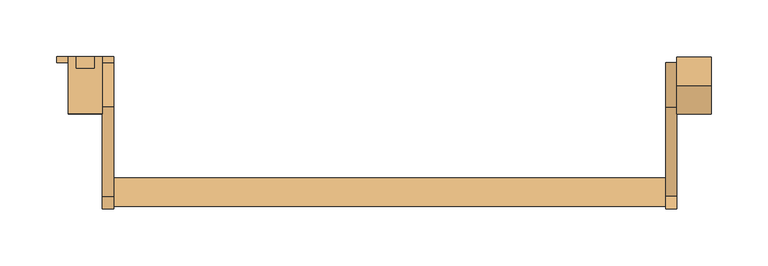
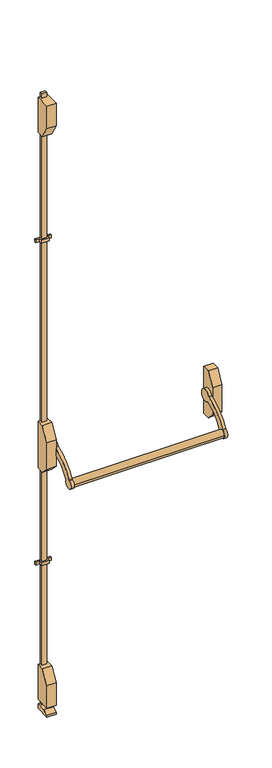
"""IFC4 building model written with IfcOpenShell, lengths in millimetres: door geometry, BarreAP : BarreAP."""

from ifc_helpers import new_model, si_unit, point, frame, frame_2d, origin, place, context, project, spatial, polyline, circle_curve, trimmed, segment, composite_curve, outline, extrude, faceted_brep, source, transform, mapped, element, save


def door_de1cb5ff(model_context):
    return source(origin(), model_context, "Body", "SolidModel", [
        extrude(outline(composite_curve([segment(trimmed(circle_curve(frame_2d((-118.8869712, 826.0898817)), 12.5), [point((-131.3869712, 826.0898817))], [point((-106.3869712, 826.0898817))], False, "CARTESIAN"), True, "CONTINUOUS"), segment(trimmed(circle_curve(frame_2d((-118.8869712, 826.0898817)), 12.5), [point((-106.3869712, 826.0898817))], [point((-131.3869712, 826.0898817))], False, "CARTESIAN"), True, "CONTINUOUS")], self_intersect=False)), frame((25.0, 0.0, 0.0), z_axis=(1.0, 0.0, 0.0), x_axis=(0.0, 1.0, 0.0)), (0.0, 0.0, 1.0), 485.0),
        extrude(outline(composite_curve([segment(trimmed(circle_curve(frame_2d((-25.0, 900.0)), 20.0), [point((-43.940256, 906.4239163))], [point((-39.9080609, 886.6677189))], False, "CARTESIAN"), True, "CONTINUOUS"), segment(trimmed(circle_curve(frame_2d((0.0, 773.4981705)), 120.0), [point((-39.9080609, 886.6677189))], [point((-104.960922, 831.663494))], True, "CARTESIAN"), True, "CONTINUOUS"), segment(trimmed(circle_curve(frame_2d((-118.8869712, 826.0898817)), 15.0), [point((-104.960922, 831.663494))], [point((-122.9027189, 840.5423476))], False, "CARTESIAN"), True, "CONTINUOUS"), segment(trimmed(circle_curve(frame_2d((0.0, 773.4981705)), 140.0), [point((-122.9027189, 840.5423476))], [point((-43.940256, 906.4239163))], False, "CARTESIAN"), True, "CONTINUOUS")], self_intersect=False)), frame((510.0, 0.0, 0.0), z_axis=(1.0, 0.0, 0.0), x_axis=(0.0, 1.0, 0.0)), (0.0, 0.0, 1.0), 10.0),
        extrude(outline(composite_curve([segment(trimmed(circle_curve(frame_2d((-25.0, 900.0)), 20.0), [point((-43.940256, 906.4239163))], [point((-39.9080609, 886.6677189))], False, "CARTESIAN"), True, "CONTINUOUS"), segment(trimmed(circle_curve(frame_2d((0.0, 773.4981705)), 120.0), [point((-39.9080609, 886.6677189))], [point((-104.960922, 831.663494))], True, "CARTESIAN"), True, "CONTINUOUS"), segment(trimmed(circle_curve(frame_2d((-118.8869712, 826.0898817)), 15.0), [point((-104.960922, 831.663494))], [point((-122.9027189, 840.5423476))], False, "CARTESIAN"), True, "CONTINUOUS"), segment(trimmed(circle_curve(frame_2d((0.0, 773.4981705)), 140.0), [point((-122.9027189, 840.5423476))], [point((-43.940256, 906.4239163))], False, "CARTESIAN"), True, "CONTINUOUS")], self_intersect=False)), frame((15.0, 0.0, 0.0), z_axis=(1.0, 0.0, 0.0), x_axis=(0.0, 1.0, 0.0)), (0.0, 0.0, 1.0), 10.0),
        extrude(outline(polyline([(-50.0, 936.6987298), (-25.0, 980.0), (0.0, 980.0), (0.0, 820.0), (-25.0, 820.0), (-50.0, 845.0), (-50.0, 936.6987298)])), frame((520.0, 0.0, 0.0), z_axis=(1.0, 0.0, 0.0), x_axis=(0.0, 1.0, 0.0)), (0.0, 0.0, 1.0), 30.0),
        extrude(outline(polyline([(-13.0, -5.0), (-25.0, -5.0), (-25.0, 0.0), (-8.0, 0.0), (-8.0, -10.0), (8.0, -10.0), (8.0, 0.0), (25.0, 0.0), (25.0, -5.0), (13.0, -5.0), (13.0, -15.0), (-13.0, -15.0), (-13.0, -5.0)])), frame((0.0, 0.0, 1595.0), z_axis=(0.0, 0.0, 1.0), x_axis=(1.0, 0.0, 0.0)), (0.0, 0.0, 1.0), 10.0),
        faceted_brep([(15.0, -50.0, 2008.3012702), (15.0, -25.0, 1965.0), (15.0, 0.0, 1965.0), (15.0, 0.0, 2085.0), (15.0, -50.0, 2085.0), (15.0, -50.0, 106.6987298), (15.0, -50.0, 30.0), (15.0, 0.0, 30.0), (15.0, 0.0, 150.0), (15.0, -25.0, 150.0), (-15.0, -50.0, 2008.3012702), (-15.0, -50.0, 2085.0), (-15.0, 0.0, 2085.0), (-15.0, 0.0, 1965.0), (-15.0, -25.0, 1965.0), (-15.0, -50.0, 106.6987298), (-15.0, -25.0, 150.0), (-15.0, 0.0, 150.0), (-15.0, 0.0, 30.0), (-15.0, -50.0, 30.0), (-8.0, 0.0, 1965.0), (-8.0, -10.0, 1965.0), (8.0, -10.0, 1965.0), (8.0, 0.0, 1965.0), (8.0, 0.0, 980.0), (15.0, 0.0, 980.0), (15.0, 0.0, 820.0), (8.0, 0.0, 820.0), (8.0, 0.0, 150.0), (8.0, 0.0, 30.0), (8.0, 0.0, 15.0), (-8.0, 0.0, 15.0), (-8.0, 0.0, 30.0), (-8.0, 0.0, 150.0), (-8.0, 0.0, 820.0), (-15.0, 0.0, 820.0), (-15.0, 0.0, 980.0), (-8.0, 0.0, 980.0), (-8.0, 0.0, 2085.0), (-8.0, 0.0, 2100.0), (8.0, 0.0, 2100.0), (8.0, 0.0, 2085.0), (8.0, -10.0, 2085.0), (-8.0, -10.0, 2085.0), (-8.0, -10.0, 30.0), (8.0, -10.0, 30.0), (8.0, -10.0, 150.0), (-8.0, -10.0, 150.0), (-8.0, -10.0, 2100.0), (8.0, -10.0, 2100.0), (8.0, -10.0, 15.0), (-8.0, -10.0, 15.0), (-8.0, -10.0, 980.0), (-8.0, -10.0, 820.0), (8.0, -10.0, 980.0), (8.0, -10.0, 820.0), (15.0, -25.0, 980.0), (15.0, -50.0, 936.6987298), (15.0, -50.0, 845.0), (15.0, -25.0, 820.0), (-15.0, -25.0, 980.0), (-15.0, -25.0, 820.0), (-15.0, -50.0, 845.0), (-15.0, -50.0, 936.6987298)], [[[0, 1, 2, 3, 4]], [[5, 6, 7, 8, 9]], [[10, 11, 12, 13, 14]], [[15, 16, 17, 18, 19]], [[1, 0, 10, 14]], [[2, 1, 14, 13, 20, 21, 22, 23]], [[3, 2, 23, 24, 25, 26, 27, 28, 8, 7, 29, 30, 31, 32, 18, 17, 33, 34, 35, 36, 37, 20, 13, 12, 38, 39, 40, 41]], [[4, 3, 41, 42, 43, 38, 12, 11]], [[0, 4, 11, 10]], [[6, 5, 15, 19]], [[7, 6, 19, 18, 32, 44, 45, 29]], [[9, 8, 28, 46, 47, 33, 17, 16]], [[5, 9, 16, 15]], [[40, 39, 48, 49]], [[30, 50, 51, 31]], [[21, 20, 37, 52]], [[33, 47, 53, 34]], [[48, 39, 38, 43]], [[31, 51, 44, 32]], [[22, 21, 52, 54]], [[47, 46, 55, 53]], [[49, 48, 43, 42]], [[51, 50, 45, 44]], [[23, 22, 54, 24]], [[46, 28, 27, 55]], [[40, 49, 42, 41]], [[50, 30, 29, 45]], [[56, 57, 58, 59, 26, 25]], [[60, 36, 35, 61, 62, 63]], [[57, 56, 60, 63]], [[58, 57, 63, 62]], [[59, 58, 62, 61]], [[26, 59, 61, 35, 34, 53, 55, 27]], [[56, 25, 24, 54, 52, 37, 36, 60]]]),
        extrude(outline(polyline([(-8.0, -10.0), (8.0, -10.0), (8.0, 0.0), (25.0, 0.0), (25.0, -5.0), (13.0, -5.0), (13.0, -15.0), (-13.0, -15.0), (-13.0, -5.0), (-25.0, -5.0), (-25.0, 0.0), (-8.0, 0.0), (-8.0, -10.0)])), frame((0.0, 0.0, 495.0), z_axis=(0.0, 0.0, 1.0), x_axis=(1.0, 0.0, 0.0)), (0.0, 0.0, 1.0), 10.0),
        extrude(outline(polyline([(-32.2782624, 15.0), (0.0, 15.0), (0.0, 0.0), (-50.0, 0.0), (-50.0, 6.7362181), (-32.2782624, 15.0)])), frame((-15.0, 0.0, 0.0), z_axis=(1.0, 0.0, 0.0), x_axis=(0.0, 1.0, 0.0)), (0.0, 0.0, 1.0), 30.0),
    ])


if __name__ == "__main__":
    model = new_model("IFC4")
    model_context = context("Model", 3, world=origin())
    ifc_project = project(units=[si_unit("LENGTHUNIT", "METRE", prefix="MILLI")], contexts=[model_context])
    site = spatial("IfcSite", under=ifc_project)
    building = spatial("IfcBuilding", under=site)
    placement = place(None, origin())
    door_shape = door_de1cb5ff(model_context)
    element("IfcDoor", 1, ObjectType="BarreAP : BarreAP", at=placement, inside=building, context=model_context, shape_type="MappedRepresentation", body=[
        mapped(door_shape, transform((0.0, 0.0, 0.0), x_axis=(1.0, 0.0, 0.0), y_axis=(0.0, 1.0, 0.0), z_axis=(0.0, 0.0, 1.0))),
    ])
    save(model, "model.ifc")
